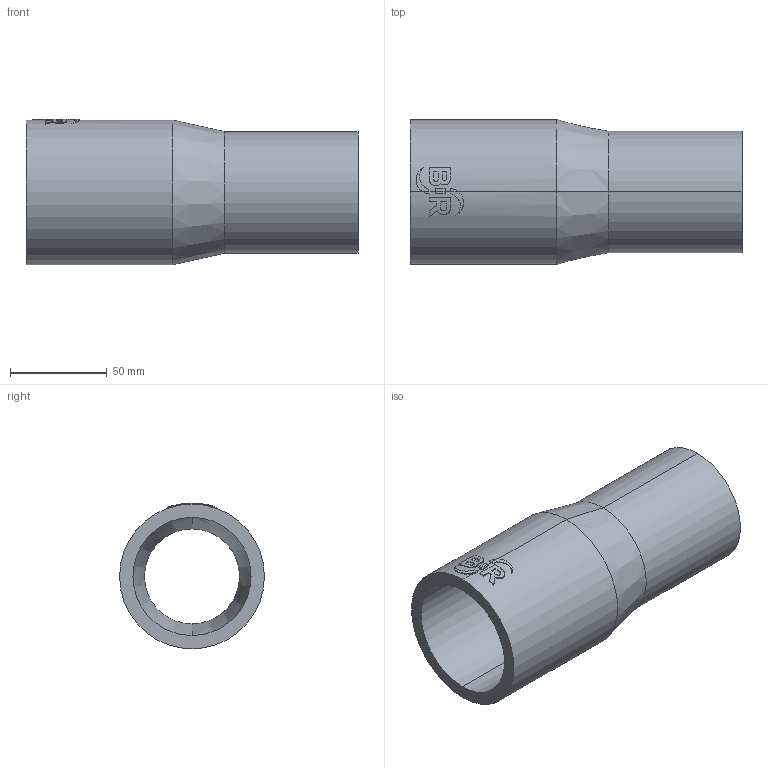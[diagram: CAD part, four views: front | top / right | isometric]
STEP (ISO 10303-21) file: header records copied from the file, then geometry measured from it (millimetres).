
FILE_DESCRIPTION (( 'STEP AP214' ), '1' );
FILE_NAME ('2323121115.STEP', '2018-07-20T09:53:24', ( '' ), ( '' ), 'SwSTEP 2.0', 'SolidWorks 2017', '' );
FILE_SCHEMA (( 'AUTOMOTIVE_DESIGN' ));
Length unit declared in the file: millimetre
Products named in the file (1): 2323121115
Bounding box: 172 x 75 x 75.46 mm (x, y, z)
Volume: 233338.1 mm3; surface area: 70398.6 mm2
Topology: 1 solids, 1 shells, 63 faces, 160 edges, 104 vertices
Faces by surface type: cylinder 31, plane 28, cone 4
Entity records: 3094 total; most frequent: CARTESIAN_POINT 885, ORIENTED_EDGE 320, DIRECTION 296, EDGE_CURVE 160, AXIS2_PLACEMENT_3D 112, VERTEX_POINT 104, LINE 72, VECTOR 72
